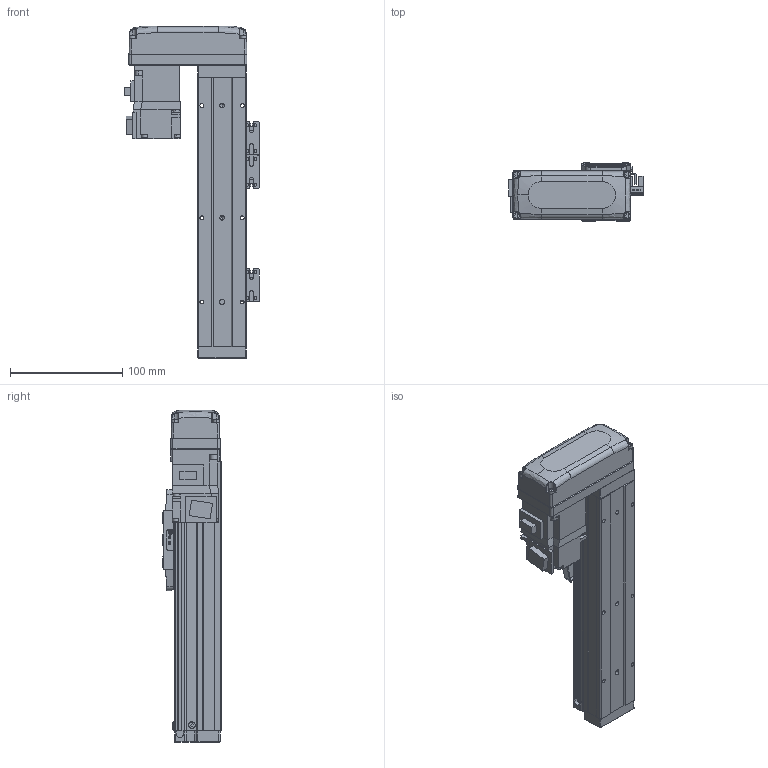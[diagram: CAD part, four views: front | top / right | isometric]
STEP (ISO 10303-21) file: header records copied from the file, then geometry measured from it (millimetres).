
FILE_DESCRIPTION (( 'STEP AP203' ), '1' );
FILE_NAME ('BTH40-100-BR-M05-C4.step', '2021-12-16T00:20:41', ( '微软用户' ), ( '微软中国' ), 'SwSTEP 2.0', 'SolidWorks 2020', '' );
FILE_SCHEMA (( 'CONFIG_CONTROL_DESIGN' ));
Length unit declared in the file: millimetre
Products named in the file (19): BTH40-001-50_BTH40-001-100; BTH50-024; HG-KR13; BTH40-003; GBT 70.1-M3℅6; GBT 70.3-M3℅6; BTH40-006; GBT96.1-2002 3×0.8; BTH40-027-1; BTH-M3X5X6; BTH40-022; BTH50-026; GBT70.1-2000 M3×16; GBT 70.1-M2.5×6; BTH40-100-BR-M05-C4; BTH50-028; BTH40-004; BTH50-023; BTH40-013
Assembly tree (47 placements, depth 2):
  BTH40-100-BR-M05-C4
    BTH40-001-50_BTH40-001-100
    BTH40-003
    BTH40-006
    BTH-M3X5X6  x8
    GBT70.1-2000 M3×16  x4
    BTH50-028  x2
    BTH50-023  x3
    BTH50-024  x3
    GBT 70.1-M3℅6  x6
    GBT96.1-2002 3×0.8  x6
    BTH40-022
    GBT 70.1-M2.5×6  x2
    BTH40-004
    BTH40-013
    HG-KR13
    GBT 70.3-M3℅6  x4
    BTH40-027-1
    BTH50-026
Bounding box: 120 x 52 x 296 mm (x, y, z)
Volume: 688610.4 mm3; surface area: 146320.3 mm2
Topology: 49 solids, 49 shells, 1967 faces, 4611 edges, 2834 vertices
Faces by surface type: plane 1052, cylinder 479, cone 270, torus 128, bspline 34, sphere 4
Entity records: 39099 total; most frequent: CARTESIAN_POINT 7498, DIRECTION 6112, ORIENTED_EDGE 5868, EDGE_CURVE 2934, AXIS2_PLACEMENT_3D 2083, VECTOR 1946, LINE 1946, VERTEX_POINT 1821
